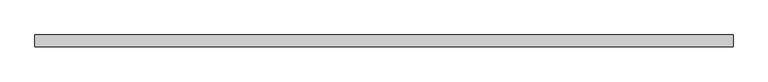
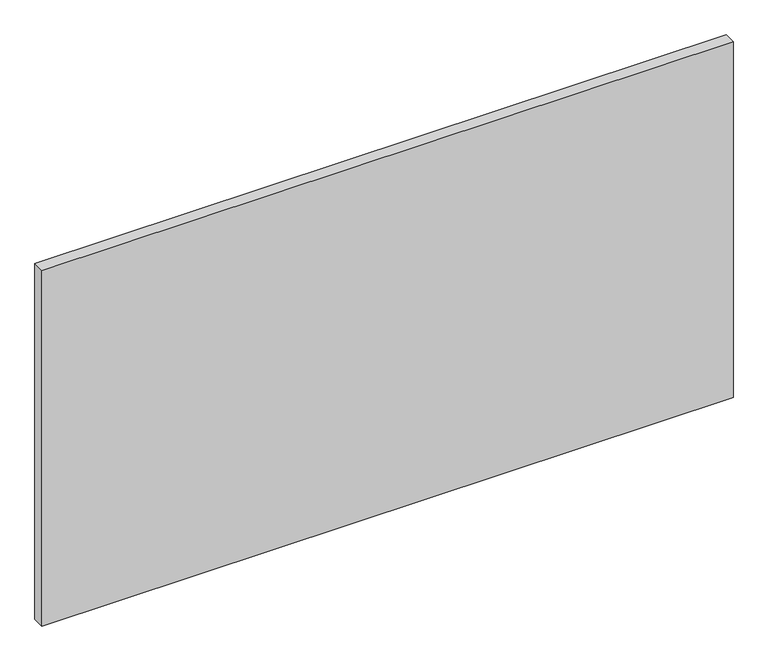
"""IFC4 building model written with IfcOpenShell, lengths in millimetres: plate geometry, 系统嵌板 : 玻璃."""

from ifc_helpers import new_model, si_unit, origin, origin_with_axes, place, context, project, spatial, polyline, outline, extrude, source, transform, mapped, element, save


def plate_a56820a4(model_context):
    return source(origin(), model_context, "Body", "SweptSolid", [
        extrude(outline(polyline([(735.0000002, -12.5), (-735.0000002, -12.5), (-735.0000002, 12.5), (735.0000002, 12.5), (735.0000002, -12.5)])), origin_with_axes(), (0.0, 0.0, 1.0), 800.0),
    ])


if __name__ == "__main__":
    model = new_model("IFC4")
    model_context = context("Model", 3, world=origin())
    ifc_project = project(units=[si_unit("LENGTHUNIT", "METRE", prefix="MILLI")], contexts=[model_context])
    site = spatial("IfcSite", under=ifc_project)
    building = spatial("IfcBuilding", under=site)
    placement = place(None, origin())
    plate_shape = plate_a56820a4(model_context)
    element("IfcPlate", 1, ObjectType="系统嵌板 : 玻璃", at=placement, inside=building, context=model_context, shape_type="MappedRepresentation", body=[
        mapped(plate_shape, transform((0.0, 0.0, 0.0), x_axis=(1.0, 0.0, 0.0), y_axis=(0.0, 1.0, 0.0), z_axis=(0.0, 0.0, 1.0))),
    ])
    save(model, "model.ifc")
